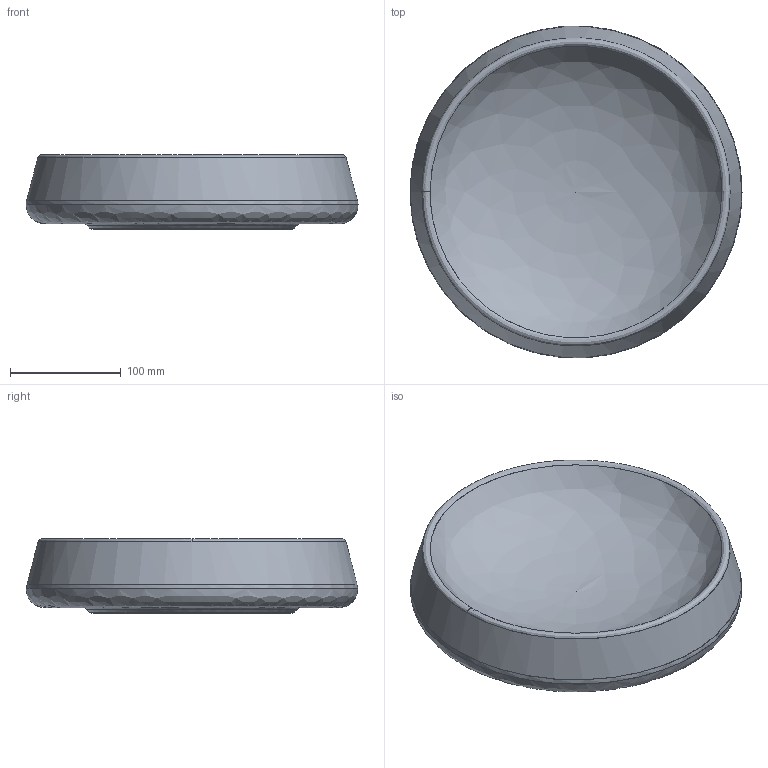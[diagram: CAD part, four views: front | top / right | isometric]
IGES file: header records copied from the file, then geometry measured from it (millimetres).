
Global section: file name: C:\Users\colombo_c\Desktop\Danese\Sito\3D mancanti\Pebosto bowl\Pebosto bowl 30.igs; native system: Rhinoceros ( Apr 16 2024 ); preprocessor: Trout Lake IGES 012 Apr 16 2024; date: 250718.093151; units: millimetre
Bounding box: 299.66 x 299.37 x 67.41 mm (x, y, z)
Surface area: 193554.4 mm2 (no closed solid volume)
Topology: 0 solids, 0 shells, 10 faces, 46 edges, 34 vertices
Faces by surface type: bspline 10
